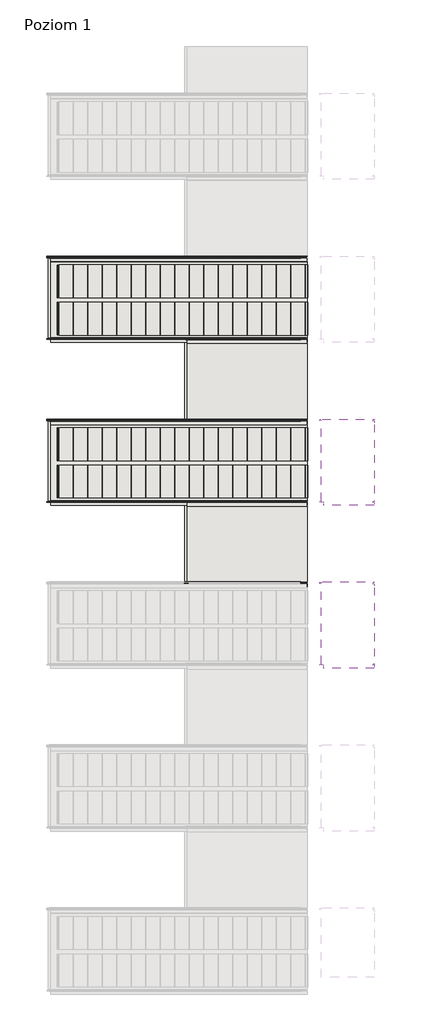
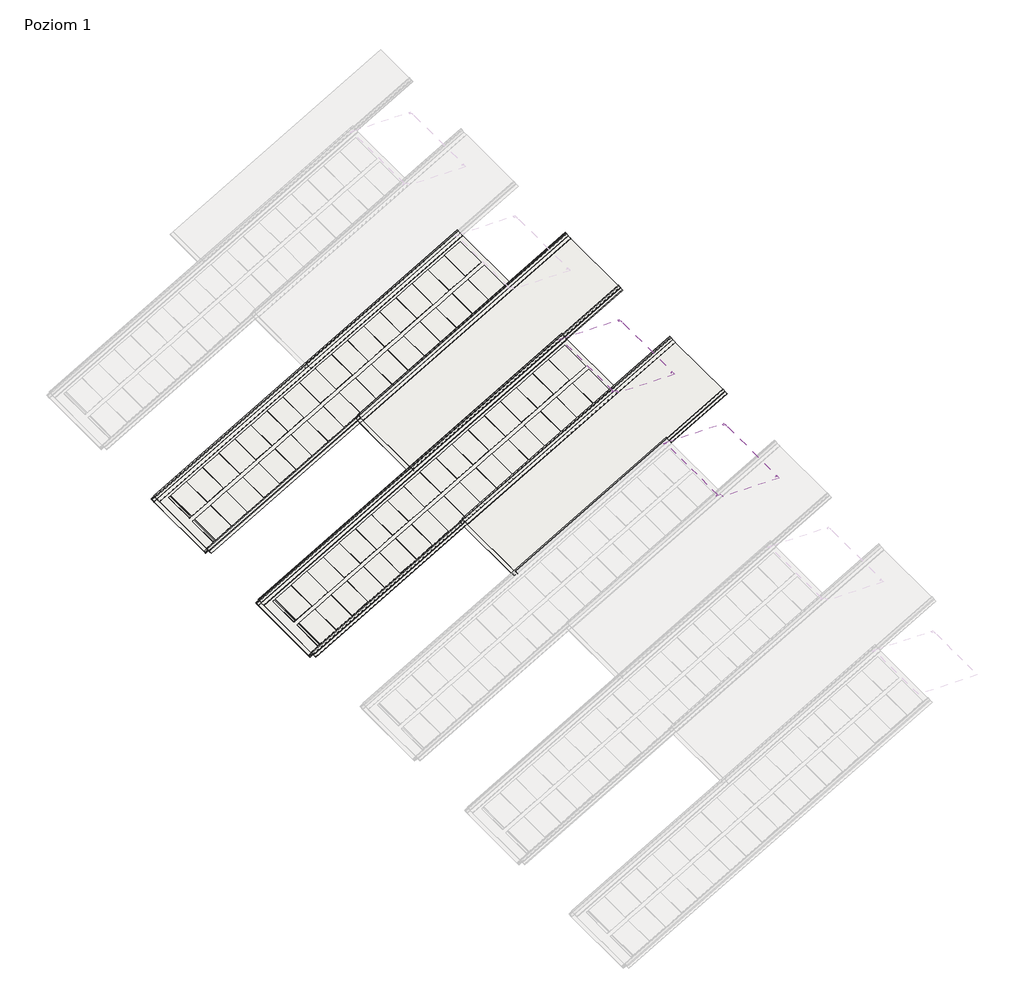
# One storey, part 4 of 5: 6 coverings.
"""IFC4 building model written with IfcOpenShell, lengths in millimetres."""

from ifc_helpers import new_model, si_unit, point, frame, frame_2d, origin, place, context, project, spatial, polyline, circle_curve, trimmed, segment, composite_curve, outline, extrude, transform, mapped, element, save
from components import covering_053faf2b

model = new_model("IFC4")

# Units and contexts
model_context = context("Model", 3, world=origin())
ifc_project = project(units=[si_unit("LENGTHUNIT", "METRE", prefix="MILLI")], contexts=[model_context])

# Site, building, storey
site = spatial("IfcSite", under=ifc_project)
building = spatial("IfcBuilding", under=site)
storey = spatial("IfcBuildingStorey", under=building, Name="Poziom 1", Elevation=3000.0)

# Coverings
placement = place(None, origin())
element("IfcCovering", 1, ObjectType="Zintegrowany dach fotowoltaiczny FIT L.P (pojedynczy arkusz) : Zintegrowany dach fotowoltaiczny FIT L.P (pojedynczy arkusz)", at=placement, inside=storey, context=model_context, shape_type="SweptSolid", body=[
    extrude(outline(composite_curve([segment(polyline([(17.2875351, 0.0), (0.0, 0.0)]), True, "CONTINUOUS"), segment(trimmed(circle_curve(frame_2d((0.0, -2.8)), 2.8), [point((0.0, 0.0))], [point((-2.8, -2.8))], True, "CARTESIAN"), True, "CONTINUOUS"), segment(polyline([(-2.8, -2.8), (-2.8, -20.5940327)]), True, "CONTINUOUS"), segment(trimmed(circle_curve(frame_2d((-4.4133269, -20.3837808)), 1.6269694), [point((-2.8, -20.5940327))], [point((-5.8290282, -21.185541))], False, "CARTESIAN"), True, "CONTINUOUS"), segment(polyline([(-5.8290282, -21.185541), (-11.2859094, -8.622424)]), True, "CONTINUOUS"), segment(trimmed(circle_curve(frame_2d((-9.3224649, -7.4245569)), 2.3), [point((-11.2859094, -8.622424))], [point((-10.3763841, -5.3802344))], False, "CARTESIAN"), True, "CONTINUOUS"), segment(polyline([(-10.3763841, -5.3802344), (-8.7036849, -4.7047108)]), True, "CONTINUOUS"), segment(trimmed(circle_curve(frame_2d((-9.0408607, -3.8698124)), 0.9004126), [point((-8.7036849, -4.7047108))], [point((-8.2514257, -3.4367591))], True, "CARTESIAN"), True, "CONTINUOUS"), segment(polyline([(-8.2514257, -3.4367591), (-10.1366978, 0.0), (-502.4735079, 0.0), (-504.4735079, -2.0), (-527.0645253, -2.0)]), True, "CONTINUOUS"), segment(trimmed(circle_curve(frame_2d((-527.0645253, -2.82435)), 0.82435), [point((-527.0645253, -2.0))], [point((-527.8888753, -2.82435))], True, "CARTESIAN"), True, "CONTINUOUS"), segment(polyline([(-527.8888753, -2.82435), (-527.8888753, -21.4999999)]), True, "CONTINUOUS"), segment(trimmed(circle_curve(frame_2d((-529.8888753, -21.4999999)), 2.0), [point((-527.8888753, -21.4999999))], [point((-529.8888753, -23.5))], False, "CARTESIAN"), True, "CONTINUOUS"), segment(polyline([(-529.8888753, -23.5), (-538.7124649, -23.5)]), True, "CONTINUOUS"), segment(trimmed(circle_curve(frame_2d((-538.7124649, -21.4999999)), 2.0), [point((-538.7124649, -23.5))], [point((-540.7124649, -21.4999999))], False, "CARTESIAN"), True, "CONTINUOUS"), segment(polyline([(-540.7124649, -21.4999999), (-540.7124649, -7.4245569)]), True, "CONTINUOUS"), segment(trimmed(circle_curve(frame_2d((-536.9124649, -7.4245569)), 3.8), [point((-540.7124649, -7.4245569))], [point((-538.602078, -4.0208519))], False, "CARTESIAN"), True, "CONTINUOUS"), segment(trimmed(circle_curve(frame_2d((-539.1177488, -2.9820395)), 1.1597619), [point((-538.602078, -4.0208519))], [point((-537.9725591, -2.798769))], True, "CARTESIAN"), True, "CONTINUOUS"), segment(polyline([(-537.9725591, -2.798769), (-538.8089749, -1.2740237), (-537.9322268, -0.7930739), (-537.1002451, -2.309736)]), True, "CONTINUOUS"), segment(trimmed(circle_curve(frame_2d((-538.6177488, -2.9820395)), 1.6597619), [point((-537.1002451, -2.309736))], [point((-537.8797605, -4.4687078))], False, "CARTESIAN"), True, "CONTINUOUS"), segment(trimmed(circle_curve(frame_2d((-536.4124649, -7.4245569)), 3.3), [point((-537.8797605, -4.4687078))], [point((-539.7124649, -7.4245569))], True, "CARTESIAN"), True, "CONTINUOUS"), segment(polyline([(-539.7124649, -7.4245569), (-539.7124649, -20.9999999)]), True, "CONTINUOUS"), segment(trimmed(circle_curve(frame_2d((-538.2124649, -20.9999999)), 1.5), [point((-539.7124649, -20.9999999))], [point((-538.2124649, -22.4999999))], True, "CARTESIAN"), True, "CONTINUOUS"), segment(polyline([(-538.2124649, -22.4999999), (-530.3888753, -22.4999999)]), True, "CONTINUOUS"), segment(trimmed(circle_curve(frame_2d((-530.3888753, -20.9999999)), 1.5), [point((-530.3888753, -22.4999999))], [point((-528.8888753, -20.9999999))], True, "CARTESIAN"), True, "CONTINUOUS"), segment(polyline([(-528.8888753, -20.9999999), (-528.8888753, -2.7363796)]), True, "CONTINUOUS"), segment(trimmed(circle_curve(frame_2d((-527.09, -2.8)), 1.8), [point((-528.8888753, -2.7363796))], [point((-527.09, -1.0))], False, "CARTESIAN"), True, "CONTINUOUS"), segment(polyline([(-527.09, -1.0), (-504.8877215, -1.0), (-502.8877215, 1.0), (-10.497252, 1.0)]), True, "CONTINUOUS"), segment(trimmed(circle_curve(frame_2d((-10.7205789, -0.9874922)), 2.0), [point((-10.497252, 1.0))], [point((-9.0887306, 0.1688258))], False, "CARTESIAN"), True, "CONTINUOUS"), segment(polyline([(-9.0887306, 0.1688258), (-7.1040334, -3.4491804)]), True, "CONTINUOUS"), segment(trimmed(circle_curve(frame_2d((-8.3318425, -4.1227085)), 1.4004126), [point((-7.1040334, -3.4491804))], [point((-7.8074327, -5.4212269))], False, "CARTESIAN"), True, "CONTINUOUS"), segment(polyline([(-7.8074327, -5.4212269), (-9.9530757, -6.28775)]), True, "CONTINUOUS"), segment(trimmed(circle_curve(frame_2d((-9.3224649, -7.4245569)), 1.3), [point((-9.9530757, -6.28775))], [point((-10.4001629, -8.151583))], True, "CARTESIAN"), True, "CONTINUOUS"), segment(polyline([(-10.4001629, -8.151583), (-4.9378013, -20.7273172)]), True, "CONTINUOUS"), segment(trimmed(circle_curve(frame_2d((-4.4133269, -20.3837808)), 0.6269694), [point((-4.9378013, -20.7273172))], [point((-3.8, -20.5138607))], True, "CARTESIAN"), True, "CONTINUOUS"), segment(polyline([(-3.8, -20.5138607), (-3.8, -2.8)]), True, "CONTINUOUS"), segment(trimmed(circle_curve(frame_2d((0.0, -2.8)), 3.8), [point((-3.8, -2.8))], [point((0.0, 1.0))], False, "CARTESIAN"), True, "CONTINUOUS"), segment(polyline([(0.0, 1.0), (17.2875351, 1.0), (17.2875351, 0.0)]), True, "CONTINUOUS")], self_intersect=False)), frame((597.6506789, -2604.5102619, 4261.5544457), z_axis=(0.8660254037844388, 0.0, 0.4999999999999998), x_axis=(0.0, -1.0, 0.0)), (0.0, 0.0, 1.0), 376.4773133),
    extrude(outline(composite_curve([segment(polyline([(28.1680323, -535.9799253), (40.9033235, -530.4482589)]), True, "CONTINUOUS"), segment(trimmed(circle_curve(frame_2d((41.6303496, -531.525957)), 1.3), [point((40.9033235, -530.4482589))], [point((42.7671565, -530.8953461))], False, "CARTESIAN"), True, "CONTINUOUS"), segment(polyline([(42.7671565, -530.8953461), (43.9725969, -533.8801997)]), True, "CONTINUOUS"), segment(trimmed(circle_curve(frame_2d((44.6041589, -533.6251419)), 0.6811204), [point((43.9725969, -533.8801997))], [point((44.9317436, -534.2223129))], True, "CARTESIAN"), True, "CONTINUOUS"), segment(polyline([(44.9317436, -534.2223129), (49.9999999, -531.442065), (49.9999999, -11.6479396)]), True, "CONTINUOUS"), segment(trimmed(circle_curve(frame_2d((49.17565, -11.6479396)), 0.82435), [point((49.9999999, -11.6479396))], [point((49.17565, -10.8235896))], True, "CARTESIAN"), True, "CONTINUOUS"), segment(polyline([(49.17565, -10.8235896), (30.0, -10.8235896)]), True, "CONTINUOUS"), segment(trimmed(circle_curve(frame_2d((30.0, -8.8235896)), 2.0), [point((30.0, -10.8235896))], [point((28.0, -8.8235896))], False, "CARTESIAN"), True, "CONTINUOUS"), segment(polyline([(28.0, -8.8235896), (28.0, -4.0)]), True, "CONTINUOUS"), segment(trimmed(circle_curve(frame_2d((30.0, -4.0)), 2.0), [point((28.0, -4.0))], [point((30.0, -2.0))], False, "CARTESIAN"), True, "CONTINUOUS"), segment(polyline([(30.0, -2.0), (42.075443, -2.0)]), True, "CONTINUOUS"), segment(trimmed(circle_curve(frame_2d((42.075443, -5.8)), 3.8), [point((42.075443, -2.0))], [point((45.479148, -4.1103869))], False, "CARTESIAN"), True, "CONTINUOUS"), segment(trimmed(circle_curve(frame_2d((46.5179605, -3.5947161)), 1.1597619), [point((45.479148, -4.1103869))], [point((46.7012309, -4.7399058))], True, "CARTESIAN"), True, "CONTINUOUS"), segment(polyline([(46.7012309, -4.7399058), (48.2259762, -3.90349), (48.7069261, -4.7802381), (47.190264, -5.6122198)]), True, "CONTINUOUS"), segment(trimmed(circle_curve(frame_2d((46.5179605, -4.0947161)), 1.6597619), [point((47.190264, -5.6122198))], [point((45.0312921, -4.8327044))], False, "CARTESIAN"), True, "CONTINUOUS"), segment(trimmed(circle_curve(frame_2d((42.075443, -6.3)), 3.3), [point((45.0312921, -4.8327044))], [point((42.075443, -3.0))], True, "CARTESIAN"), True, "CONTINUOUS"), segment(polyline([(42.075443, -3.0), (30.5, -3.0)]), True, "CONTINUOUS"), segment(trimmed(circle_curve(frame_2d((30.5, -4.5)), 1.5), [point((30.5, -3.0))], [point((29.0, -4.5))], True, "CARTESIAN"), True, "CONTINUOUS"), segment(polyline([(29.0, -4.5), (29.0, -8.3235896)]), True, "CONTINUOUS"), segment(trimmed(circle_curve(frame_2d((30.5, -8.3235896)), 1.5), [point((29.0, -8.3235896))], [point((30.5, -9.8235896))], True, "CARTESIAN"), True, "CONTINUOUS"), segment(polyline([(30.5, -9.8235896), (49.2636204, -9.8235896)]), True, "CONTINUOUS"), segment(trimmed(circle_curve(frame_2d((49.1999999, -11.6224649)), 1.8), [point((49.2636204, -9.8235896))], [point((50.9999999, -11.6224649))], False, "CARTESIAN"), True, "CONTINUOUS"), segment(polyline([(50.9999999, -11.6224649), (50.9999999, -530.8500476)]), True, "CONTINUOUS"), segment(trimmed(circle_curve(frame_2d((48.9999999, -530.8500476)), 2.0), [point((50.9999999, -530.8500476))], [point((49.9618997, -532.6035438))], False, "CARTESIAN"), True, "CONTINUOUS"), segment(polyline([(49.9618997, -532.6035438), (45.1357072, -535.2510049)]), True, "CONTINUOUS"), segment(trimmed(circle_curve(frame_2d((44.462179, -534.0231958)), 1.4004126), [point((45.1357072, -535.2510049))], [point((43.1636607, -534.5476056))], False, "CARTESIAN"), True, "CONTINUOUS"), segment(polyline([(43.1636607, -534.5476056), (41.792464, -531.152314), (28.7259873, -536.8278332)]), True, "CONTINUOUS"), segment(trimmed(circle_curve(frame_2d((28.5207601, -536.3553487)), 0.5151308), [point((28.7259873, -536.8278332))], [point((28.1680323, -535.9799253))], False, "CARTESIAN"), True, "CONTINUOUS")], self_intersect=False)), frame((555.8301708, -2063.797797, 4293.9896904), z_axis=(0.8660254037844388, 0.0, 0.4999999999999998), x_axis=(0.4999999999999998, 0.0, -0.8660254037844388)), (0.0, 0.0, 1.0), 30.0),
])
element("IfcCovering", 2, ObjectType="Zintegrowany dach fotowoltaiczny FIT L.P (pojedynczy arkusz) : Zintegrowany dach fotowoltaiczny FIT L.P (pojedynczy arkusz)", at=placement, inside=storey, context=model_context, shape_type="SweptSolid", body=[
    extrude(outline(composite_curve([segment(polyline([(17.2875351, 0.0), (0.0, 0.0)]), True, "CONTINUOUS"), segment(trimmed(circle_curve(frame_2d((0.0, -2.8)), 2.8), [point((0.0, 0.0))], [point((-2.8, -2.8))], True, "CARTESIAN"), True, "CONTINUOUS"), segment(polyline([(-2.8, -2.8), (-2.8, -20.5940327)]), True, "CONTINUOUS"), segment(trimmed(circle_curve(frame_2d((-4.4133269, -20.3837808)), 1.6269694), [point((-2.8, -20.5940327))], [point((-5.8290282, -21.185541))], False, "CARTESIAN"), True, "CONTINUOUS"), segment(polyline([(-5.8290282, -21.185541), (-11.2859094, -8.622424)]), True, "CONTINUOUS"), segment(trimmed(circle_curve(frame_2d((-9.3224649, -7.4245569)), 2.3), [point((-11.2859094, -8.622424))], [point((-10.3763841, -5.3802344))], False, "CARTESIAN"), True, "CONTINUOUS"), segment(polyline([(-10.3763841, -5.3802344), (-8.7036849, -4.7047108)]), True, "CONTINUOUS"), segment(trimmed(circle_curve(frame_2d((-9.0408607, -3.8698124)), 0.9004126), [point((-8.7036849, -4.7047108))], [point((-8.2514257, -3.4367591))], True, "CARTESIAN"), True, "CONTINUOUS"), segment(polyline([(-8.2514257, -3.4367591), (-10.1366978, 0.0), (-502.4735079, 0.0), (-504.4735079, -2.0), (-527.0645253, -2.0)]), True, "CONTINUOUS"), segment(trimmed(circle_curve(frame_2d((-527.0645253, -2.82435)), 0.82435), [point((-527.0645253, -2.0))], [point((-527.8888753, -2.82435))], True, "CARTESIAN"), True, "CONTINUOUS"), segment(polyline([(-527.8888753, -2.82435), (-527.8888753, -21.4999999)]), True, "CONTINUOUS"), segment(trimmed(circle_curve(frame_2d((-529.8888753, -21.4999999)), 2.0), [point((-527.8888753, -21.4999999))], [point((-529.8888753, -23.5))], False, "CARTESIAN"), True, "CONTINUOUS"), segment(polyline([(-529.8888753, -23.5), (-538.7124649, -23.5)]), True, "CONTINUOUS"), segment(trimmed(circle_curve(frame_2d((-538.7124649, -21.4999999)), 2.0), [point((-538.7124649, -23.5))], [point((-540.7124649, -21.4999999))], False, "CARTESIAN"), True, "CONTINUOUS"), segment(polyline([(-540.7124649, -21.4999999), (-540.7124649, -7.4245569)]), True, "CONTINUOUS"), segment(trimmed(circle_curve(frame_2d((-536.9124649, -7.4245569)), 3.8), [point((-540.7124649, -7.4245569))], [point((-538.602078, -4.0208519))], False, "CARTESIAN"), True, "CONTINUOUS"), segment(trimmed(circle_curve(frame_2d((-539.1177488, -2.9820394)), 1.1597619), [point((-538.602078, -4.0208519))], [point((-537.9725591, -2.798769))], True, "CARTESIAN"), True, "CONTINUOUS"), segment(polyline([(-537.9725591, -2.798769), (-538.8089749, -1.2740237), (-537.9322268, -0.7930738), (-537.1002451, -2.3097359)]), True, "CONTINUOUS"), segment(trimmed(circle_curve(frame_2d((-538.6177488, -2.9820394)), 1.6597619), [point((-537.1002451, -2.3097359))], [point((-537.8797605, -4.4687078))], False, "CARTESIAN"), True, "CONTINUOUS"), segment(trimmed(circle_curve(frame_2d((-536.4124649, -7.4245569)), 3.3), [point((-537.8797605, -4.4687078))], [point((-539.7124649, -7.4245569))], True, "CARTESIAN"), True, "CONTINUOUS"), segment(polyline([(-539.7124649, -7.4245569), (-539.7124649, -20.9999999)]), True, "CONTINUOUS"), segment(trimmed(circle_curve(frame_2d((-538.2124649, -20.9999999)), 1.5), [point((-539.7124649, -20.9999999))], [point((-538.2124649, -22.4999999))], True, "CARTESIAN"), True, "CONTINUOUS"), segment(polyline([(-538.2124649, -22.4999999), (-530.3888753, -22.4999999)]), True, "CONTINUOUS"), segment(trimmed(circle_curve(frame_2d((-530.3888753, -20.9999999)), 1.5), [point((-530.3888753, -22.4999999))], [point((-528.8888753, -20.9999999))], True, "CARTESIAN"), True, "CONTINUOUS"), segment(polyline([(-528.8888753, -20.9999999), (-528.8888753, -2.7363796)]), True, "CONTINUOUS"), segment(trimmed(circle_curve(frame_2d((-527.09, -2.8)), 1.8), [point((-528.8888753, -2.7363796))], [point((-527.09, -1.0))], False, "CARTESIAN"), True, "CONTINUOUS"), segment(polyline([(-527.09, -1.0), (-504.8877215, -1.0), (-502.8877215, 1.0), (-10.497252, 1.0)]), True, "CONTINUOUS"), segment(trimmed(circle_curve(frame_2d((-10.7205789, -0.9874921)), 2.0), [point((-10.497252, 1.0))], [point((-9.0887306, 0.1688258))], False, "CARTESIAN"), True, "CONTINUOUS"), segment(polyline([(-9.0887306, 0.1688258), (-7.1040334, -3.4491804)]), True, "CONTINUOUS"), segment(trimmed(circle_curve(frame_2d((-8.3318425, -4.1227085)), 1.4004126), [point((-7.1040334, -3.4491804))], [point((-7.8074327, -5.4212269))], False, "CARTESIAN"), True, "CONTINUOUS"), segment(polyline([(-7.8074327, -5.4212269), (-9.9530757, -6.2877499)]), True, "CONTINUOUS"), segment(trimmed(circle_curve(frame_2d((-9.3224649, -7.4245569)), 1.3), [point((-9.9530757, -6.2877499))], [point((-10.4001629, -8.151583))], True, "CARTESIAN"), True, "CONTINUOUS"), segment(polyline([(-10.4001629, -8.151583), (-4.9378013, -20.7273172)]), True, "CONTINUOUS"), segment(trimmed(circle_curve(frame_2d((-4.4133269, -20.3837808)), 0.6269694), [point((-4.9378013, -20.7273172))], [point((-3.8, -20.5138607))], True, "CARTESIAN"), True, "CONTINUOUS"), segment(polyline([(-3.8, -20.5138607), (-3.8, -2.8)]), True, "CONTINUOUS"), segment(trimmed(circle_curve(frame_2d((0.0, -2.8)), 3.8), [point((-3.8, -2.8))], [point((0.0, 1.0))], False, "CARTESIAN"), True, "CONTINUOUS"), segment(polyline([(0.0, 1.0), (17.2875351, 1.0), (17.2875351, 0.0)]), True, "CONTINUOUS")], self_intersect=False)), frame((-285.695233, -2077.5102619, 3751.5544457), z_axis=(0.8660254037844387, 0.0, 0.49999999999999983), x_axis=(0.0, -1.0, 0.0)), (0.0, 0.0, 1.0), 1396.4773133),
    extrude(outline(composite_curve([segment(polyline([(28.1680322, -535.9799253), (40.9033234, -530.4482589)]), True, "CONTINUOUS"), segment(trimmed(circle_curve(frame_2d((41.6303496, -531.525957)), 1.3), [point((40.9033234, -530.4482589))], [point((42.7671565, -530.8953461))], False, "CARTESIAN"), True, "CONTINUOUS"), segment(polyline([(42.7671565, -530.8953461), (43.9725969, -533.8801997)]), True, "CONTINUOUS"), segment(trimmed(circle_curve(frame_2d((44.6041589, -533.6251419)), 0.6811204), [point((43.9725969, -533.8801997))], [point((44.9317436, -534.2223129))], True, "CARTESIAN"), True, "CONTINUOUS"), segment(polyline([(44.9317436, -534.2223129), (49.9999999, -531.442065), (49.9999999, -11.6479396)]), True, "CONTINUOUS"), segment(trimmed(circle_curve(frame_2d((49.17565, -11.6479396)), 0.82435), [point((49.9999999, -11.6479396))], [point((49.17565, -10.8235896))], True, "CARTESIAN"), True, "CONTINUOUS"), segment(polyline([(49.17565, -10.8235896), (30.0, -10.8235896)]), True, "CONTINUOUS"), segment(trimmed(circle_curve(frame_2d((30.0, -8.8235896)), 2.0), [point((30.0, -10.8235896))], [point((28.0, -8.8235896))], False, "CARTESIAN"), True, "CONTINUOUS"), segment(polyline([(28.0, -8.8235896), (28.0, -4.0)]), True, "CONTINUOUS"), segment(trimmed(circle_curve(frame_2d((30.0, -4.0)), 2.0), [point((28.0, -4.0))], [point((30.0, -2.0))], False, "CARTESIAN"), True, "CONTINUOUS"), segment(polyline([(30.0, -2.0), (42.075443, -2.0)]), True, "CONTINUOUS"), segment(trimmed(circle_curve(frame_2d((42.075443, -5.8)), 3.8), [point((42.075443, -2.0))], [point((45.479148, -4.1103869))], False, "CARTESIAN"), True, "CONTINUOUS"), segment(trimmed(circle_curve(frame_2d((46.5179605, -3.5947161)), 1.1597619), [point((45.479148, -4.1103869))], [point((46.7012308, -4.7399058))], True, "CARTESIAN"), True, "CONTINUOUS"), segment(polyline([(46.7012308, -4.7399058), (48.2259762, -3.90349), (48.706926, -4.7802381), (47.190264, -5.6122198)]), True, "CONTINUOUS"), segment(trimmed(circle_curve(frame_2d((46.5179605, -4.0947161)), 1.6597619), [point((47.190264, -5.6122198))], [point((45.0312921, -4.8327044))], False, "CARTESIAN"), True, "CONTINUOUS"), segment(trimmed(circle_curve(frame_2d((42.075443, -6.3)), 3.3), [point((45.0312921, -4.8327044))], [point((42.075443, -3.0))], True, "CARTESIAN"), True, "CONTINUOUS"), segment(polyline([(42.075443, -3.0), (30.5, -3.0)]), True, "CONTINUOUS"), segment(trimmed(circle_curve(frame_2d((30.5, -4.5)), 1.5), [point((30.5, -3.0))], [point((29.0, -4.5))], True, "CARTESIAN"), True, "CONTINUOUS"), segment(polyline([(29.0, -4.5), (29.0, -8.3235896)]), True, "CONTINUOUS"), segment(trimmed(circle_curve(frame_2d((30.5, -8.3235896)), 1.5), [point((29.0, -8.3235896))], [point((30.5, -9.8235896))], True, "CARTESIAN"), True, "CONTINUOUS"), segment(polyline([(30.5, -9.8235896), (49.2636204, -9.8235896)]), True, "CONTINUOUS"), segment(trimmed(circle_curve(frame_2d((49.1999999, -11.6224649)), 1.8), [point((49.2636204, -9.8235896))], [point((50.9999999, -11.6224649))], False, "CARTESIAN"), True, "CONTINUOUS"), segment(polyline([(50.9999999, -11.6224649), (50.9999999, -530.8500476)]), True, "CONTINUOUS"), segment(trimmed(circle_curve(frame_2d((48.9999999, -530.8500476)), 2.0), [point((50.9999999, -530.8500476))], [point((49.9618996, -532.6035438))], False, "CARTESIAN"), True, "CONTINUOUS"), segment(polyline([(49.9618996, -532.6035438), (45.1357072, -535.2510049)]), True, "CONTINUOUS"), segment(trimmed(circle_curve(frame_2d((44.462179, -534.0231958)), 1.4004126), [point((45.1357072, -535.2510049))], [point((43.1636607, -534.5476056))], False, "CARTESIAN"), True, "CONTINUOUS"), segment(polyline([(43.1636607, -534.5476056), (41.792464, -531.152314), (28.7259872, -536.8278332)]), True, "CONTINUOUS"), segment(trimmed(circle_curve(frame_2d((28.5207601, -536.3553487)), 0.5151308), [point((28.7259872, -536.8278332))], [point((28.1680322, -535.9799253))], False, "CARTESIAN"), True, "CONTINUOUS")], self_intersect=False)), frame((-327.515741, -1536.797797, 3783.9896904), z_axis=(0.8660254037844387, 0.0, 0.49999999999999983), x_axis=(0.49999999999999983, 0.0, -0.8660254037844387)), (0.0, 0.0, 1.0), 30.0),
])
element("IfcCovering", 3, ObjectType="Zintegrowany dach fotowoltaiczny FIT L.P (pojedynczy arkusz) : Zintegrowany dach fotowoltaiczny FIT L.P (pojedynczy arkusz)", at=placement, inside=storey, context=model_context, shape_type="SweptSolid", body=[
    extrude(outline(composite_curve([segment(polyline([(17.2875351, 0.0), (0.0, 0.0)]), True, "CONTINUOUS"), segment(trimmed(circle_curve(frame_2d((0.0, -2.8)), 2.8), [point((0.0, 0.0))], [point((-2.8, -2.8))], True, "CARTESIAN"), True, "CONTINUOUS"), segment(polyline([(-2.8, -2.8), (-2.8, -20.5940327)]), True, "CONTINUOUS"), segment(trimmed(circle_curve(frame_2d((-4.4133269, -20.3837808)), 1.6269694), [point((-2.8, -20.5940327))], [point((-5.8290282, -21.185541))], False, "CARTESIAN"), True, "CONTINUOUS"), segment(polyline([(-5.8290282, -21.185541), (-11.2859094, -8.622424)]), True, "CONTINUOUS"), segment(trimmed(circle_curve(frame_2d((-9.3224649, -7.4245569)), 2.3), [point((-11.2859094, -8.622424))], [point((-10.3763841, -5.3802344))], False, "CARTESIAN"), True, "CONTINUOUS"), segment(polyline([(-10.3763841, -5.3802344), (-8.7036849, -4.7047108)]), True, "CONTINUOUS"), segment(trimmed(circle_curve(frame_2d((-9.0408607, -3.8698124)), 0.9004126), [point((-8.7036849, -4.7047108))], [point((-8.2514257, -3.4367591))], True, "CARTESIAN"), True, "CONTINUOUS"), segment(polyline([(-8.2514257, -3.4367591), (-10.1366978, 0.0), (-502.4735079, 0.0), (-504.4735079, -2.0), (-527.0645253, -2.0)]), True, "CONTINUOUS"), segment(trimmed(circle_curve(frame_2d((-527.0645253, -2.82435)), 0.82435), [point((-527.0645253, -2.0))], [point((-527.8888753, -2.82435))], True, "CARTESIAN"), True, "CONTINUOUS"), segment(polyline([(-527.8888753, -2.82435), (-527.8888753, -21.4999999)]), True, "CONTINUOUS"), segment(trimmed(circle_curve(frame_2d((-529.8888753, -21.4999999)), 2.0), [point((-527.8888753, -21.4999999))], [point((-529.8888753, -23.5))], False, "CARTESIAN"), True, "CONTINUOUS"), segment(polyline([(-529.8888753, -23.5), (-538.7124649, -23.5)]), True, "CONTINUOUS"), segment(trimmed(circle_curve(frame_2d((-538.7124649, -21.4999999)), 2.0), [point((-538.7124649, -23.5))], [point((-540.7124649, -21.4999999))], False, "CARTESIAN"), True, "CONTINUOUS"), segment(polyline([(-540.7124649, -21.4999999), (-540.7124649, -7.4245569)]), True, "CONTINUOUS"), segment(trimmed(circle_curve(frame_2d((-536.9124649, -7.4245569)), 3.8), [point((-540.7124649, -7.4245569))], [point((-538.602078, -4.0208519))], False, "CARTESIAN"), True, "CONTINUOUS"), segment(trimmed(circle_curve(frame_2d((-539.1177488, -2.9820395)), 1.1597619), [point((-538.602078, -4.0208519))], [point((-537.9725591, -2.798769))], True, "CARTESIAN"), True, "CONTINUOUS"), segment(polyline([(-537.9725591, -2.798769), (-538.8089749, -1.2740237), (-537.9322268, -0.7930739), (-537.1002451, -2.309736)]), True, "CONTINUOUS"), segment(trimmed(circle_curve(frame_2d((-538.6177488, -2.9820395)), 1.6597619), [point((-537.1002451, -2.309736))], [point((-537.8797605, -4.4687078))], False, "CARTESIAN"), True, "CONTINUOUS"), segment(trimmed(circle_curve(frame_2d((-536.4124649, -7.4245569)), 3.3), [point((-537.8797605, -4.4687078))], [point((-539.7124649, -7.4245569))], True, "CARTESIAN"), True, "CONTINUOUS"), segment(polyline([(-539.7124649, -7.4245569), (-539.7124649, -20.9999999)]), True, "CONTINUOUS"), segment(trimmed(circle_curve(frame_2d((-538.2124649, -20.9999999)), 1.5), [point((-539.7124649, -20.9999999))], [point((-538.2124649, -22.4999999))], True, "CARTESIAN"), True, "CONTINUOUS"), segment(polyline([(-538.2124649, -22.4999999), (-530.3888753, -22.4999999)]), True, "CONTINUOUS"), segment(trimmed(circle_curve(frame_2d((-530.3888753, -20.9999999)), 1.5), [point((-530.3888753, -22.4999999))], [point((-528.8888753, -20.9999999))], True, "CARTESIAN"), True, "CONTINUOUS"), segment(polyline([(-528.8888753, -20.9999999), (-528.8888753, -2.7363796)]), True, "CONTINUOUS"), segment(trimmed(circle_curve(frame_2d((-527.09, -2.8)), 1.8), [point((-528.8888753, -2.7363796))], [point((-527.09, -1.0))], False, "CARTESIAN"), True, "CONTINUOUS"), segment(polyline([(-527.09, -1.0), (-504.8877215, -1.0), (-502.8877215, 1.0), (-10.497252, 1.0)]), True, "CONTINUOUS"), segment(trimmed(circle_curve(frame_2d((-10.7205789, -0.9874922)), 2.0), [point((-10.497252, 1.0))], [point((-9.0887306, 0.1688258))], False, "CARTESIAN"), True, "CONTINUOUS"), segment(polyline([(-9.0887306, 0.1688258), (-7.1040334, -3.4491804)]), True, "CONTINUOUS"), segment(trimmed(circle_curve(frame_2d((-8.3318425, -4.1227085)), 1.4004126), [point((-7.1040334, -3.4491804))], [point((-7.8074327, -5.4212269))], False, "CARTESIAN"), True, "CONTINUOUS"), segment(polyline([(-7.8074327, -5.4212269), (-9.9530757, -6.28775)]), True, "CONTINUOUS"), segment(trimmed(circle_curve(frame_2d((-9.3224649, -7.4245569)), 1.3), [point((-9.9530757, -6.28775))], [point((-10.4001629, -8.151583))], True, "CARTESIAN"), True, "CONTINUOUS"), segment(polyline([(-10.4001629, -8.151583), (-4.9378013, -20.7273172)]), True, "CONTINUOUS"), segment(trimmed(circle_curve(frame_2d((-4.4133269, -20.3837808)), 0.6269694), [point((-4.9378013, -20.7273172))], [point((-3.8, -20.5138607))], True, "CARTESIAN"), True, "CONTINUOUS"), segment(polyline([(-3.8, -20.5138607), (-3.8, -2.8)]), True, "CONTINUOUS"), segment(trimmed(circle_curve(frame_2d((0.0, -2.8)), 3.8), [point((-3.8, -2.8))], [point((0.0, 1.0))], False, "CARTESIAN"), True, "CONTINUOUS"), segment(polyline([(0.0, 1.0), (17.2875351, 1.0), (17.2875351, 0.0)]), True, "CONTINUOUS")], self_intersect=False)), frame((597.6506789, -1550.5102619, 4261.5544457), z_axis=(0.8660254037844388, 0.0, 0.49999999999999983), x_axis=(0.0, -1.0, 0.0)), (0.0, 0.0, 1.0), 376.4773133),
    extrude(outline(composite_curve([segment(polyline([(28.1680323, -535.9799253), (40.9033235, -530.4482589)]), True, "CONTINUOUS"), segment(trimmed(circle_curve(frame_2d((41.6303496, -531.525957)), 1.3), [point((40.9033235, -530.4482589))], [point((42.7671565, -530.8953461))], False, "CARTESIAN"), True, "CONTINUOUS"), segment(polyline([(42.7671565, -530.8953461), (43.9725969, -533.8801997)]), True, "CONTINUOUS"), segment(trimmed(circle_curve(frame_2d((44.6041589, -533.6251419)), 0.6811204), [point((43.9725969, -533.8801997))], [point((44.9317436, -534.2223129))], True, "CARTESIAN"), True, "CONTINUOUS"), segment(polyline([(44.9317436, -534.2223129), (49.9999999, -531.442065), (49.9999999, -11.6479396)]), True, "CONTINUOUS"), segment(trimmed(circle_curve(frame_2d((49.17565, -11.6479396)), 0.82435), [point((49.9999999, -11.6479396))], [point((49.17565, -10.8235896))], True, "CARTESIAN"), True, "CONTINUOUS"), segment(polyline([(49.17565, -10.8235896), (30.0, -10.8235896)]), True, "CONTINUOUS"), segment(trimmed(circle_curve(frame_2d((30.0, -8.8235896)), 2.0), [point((30.0, -10.8235896))], [point((28.0, -8.8235896))], False, "CARTESIAN"), True, "CONTINUOUS"), segment(polyline([(28.0, -8.8235896), (28.0, -4.0)]), True, "CONTINUOUS"), segment(trimmed(circle_curve(frame_2d((30.0, -4.0)), 2.0), [point((28.0, -4.0))], [point((30.0, -2.0))], False, "CARTESIAN"), True, "CONTINUOUS"), segment(polyline([(30.0, -2.0), (42.075443, -2.0)]), True, "CONTINUOUS"), segment(trimmed(circle_curve(frame_2d((42.075443, -5.8)), 3.8), [point((42.075443, -2.0))], [point((45.479148, -4.1103869))], False, "CARTESIAN"), True, "CONTINUOUS"), segment(trimmed(circle_curve(frame_2d((46.5179605, -3.5947161)), 1.1597619), [point((45.479148, -4.1103869))], [point((46.7012309, -4.7399058))], True, "CARTESIAN"), True, "CONTINUOUS"), segment(polyline([(46.7012309, -4.7399058), (48.2259762, -3.90349), (48.7069261, -4.7802381), (47.190264, -5.6122198)]), True, "CONTINUOUS"), segment(trimmed(circle_curve(frame_2d((46.5179605, -4.0947161)), 1.6597619), [point((47.190264, -5.6122198))], [point((45.0312921, -4.8327044))], False, "CARTESIAN"), True, "CONTINUOUS"), segment(trimmed(circle_curve(frame_2d((42.075443, -6.3)), 3.3), [point((45.0312921, -4.8327044))], [point((42.075443, -3.0))], True, "CARTESIAN"), True, "CONTINUOUS"), segment(polyline([(42.075443, -3.0), (30.5, -3.0)]), True, "CONTINUOUS"), segment(trimmed(circle_curve(frame_2d((30.5, -4.5)), 1.5), [point((30.5, -3.0))], [point((29.0, -4.5))], True, "CARTESIAN"), True, "CONTINUOUS"), segment(polyline([(29.0, -4.5), (29.0, -8.3235896)]), True, "CONTINUOUS"), segment(trimmed(circle_curve(frame_2d((30.5, -8.3235896)), 1.5), [point((29.0, -8.3235896))], [point((30.5, -9.8235896))], True, "CARTESIAN"), True, "CONTINUOUS"), segment(polyline([(30.5, -9.8235896), (49.2636204, -9.8235896)]), True, "CONTINUOUS"), segment(trimmed(circle_curve(frame_2d((49.1999999, -11.6224649)), 1.8), [point((49.2636204, -9.8235896))], [point((50.9999999, -11.6224649))], False, "CARTESIAN"), True, "CONTINUOUS"), segment(polyline([(50.9999999, -11.6224649), (50.9999999, -530.8500476)]), True, "CONTINUOUS"), segment(trimmed(circle_curve(frame_2d((48.9999999, -530.8500476)), 2.0), [point((50.9999999, -530.8500476))], [point((49.9618997, -532.6035438))], False, "CARTESIAN"), True, "CONTINUOUS"), segment(polyline([(49.9618997, -532.6035438), (45.1357072, -535.2510049)]), True, "CONTINUOUS"), segment(trimmed(circle_curve(frame_2d((44.462179, -534.0231958)), 1.4004126), [point((45.1357072, -535.2510049))], [point((43.1636607, -534.5476056))], False, "CARTESIAN"), True, "CONTINUOUS"), segment(polyline([(43.1636607, -534.5476056), (41.792464, -531.152314), (28.7259873, -536.8278332)]), True, "CONTINUOUS"), segment(trimmed(circle_curve(frame_2d((28.5207601, -536.3553487)), 0.5151308), [point((28.7259873, -536.8278332))], [point((28.1680323, -535.9799253))], False, "CARTESIAN"), True, "CONTINUOUS")], self_intersect=False)), frame((555.8301708, -1009.797797, 4293.9896904), z_axis=(0.8660254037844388, 0.0, 0.49999999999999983), x_axis=(0.49999999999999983, 0.0, -0.8660254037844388)), (0.0, 0.0, 1.0), 30.0),
])
element("IfcCovering", 4, ObjectType="Zintegrowany dach fotowoltaiczny FIT L.P (pojedynczy arkusz) : Zintegrowany dach fotowoltaiczny FIT L.P (pojedynczy arkusz)", at=placement, inside=storey, context=model_context, shape_type="SweptSolid", body=[
    extrude(outline(composite_curve([segment(polyline([(17.2875351, 0.0), (0.0, 0.0)]), True, "CONTINUOUS"), segment(trimmed(circle_curve(frame_2d((0.0, -2.8)), 2.8), [point((0.0, 0.0))], [point((-2.8, -2.8))], True, "CARTESIAN"), True, "CONTINUOUS"), segment(polyline([(-2.8, -2.8), (-2.8, -20.5940327)]), True, "CONTINUOUS"), segment(trimmed(circle_curve(frame_2d((-4.4133269, -20.3837808)), 1.6269694), [point((-2.8, -20.5940327))], [point((-5.8290282, -21.185541))], False, "CARTESIAN"), True, "CONTINUOUS"), segment(polyline([(-5.8290282, -21.185541), (-11.2859094, -8.622424)]), True, "CONTINUOUS"), segment(trimmed(circle_curve(frame_2d((-9.3224649, -7.4245569)), 2.3), [point((-11.2859094, -8.622424))], [point((-10.3763841, -5.3802344))], False, "CARTESIAN"), True, "CONTINUOUS"), segment(polyline([(-10.3763841, -5.3802344), (-8.7036849, -4.7047108)]), True, "CONTINUOUS"), segment(trimmed(circle_curve(frame_2d((-9.0408607, -3.8698124)), 0.9004126), [point((-8.7036849, -4.7047108))], [point((-8.2514257, -3.4367591))], True, "CARTESIAN"), True, "CONTINUOUS"), segment(polyline([(-8.2514257, -3.4367591), (-10.1366978, 0.0), (-502.4735079, 0.0), (-504.4735079, -2.0), (-527.0645253, -2.0)]), True, "CONTINUOUS"), segment(trimmed(circle_curve(frame_2d((-527.0645253, -2.82435)), 0.82435), [point((-527.0645253, -2.0))], [point((-527.8888753, -2.82435))], True, "CARTESIAN"), True, "CONTINUOUS"), segment(polyline([(-527.8888753, -2.82435), (-527.8888753, -21.4999999)]), True, "CONTINUOUS"), segment(trimmed(circle_curve(frame_2d((-529.8888753, -21.4999999)), 2.0), [point((-527.8888753, -21.4999999))], [point((-529.8888753, -23.5))], False, "CARTESIAN"), True, "CONTINUOUS"), segment(polyline([(-529.8888753, -23.5), (-538.7124649, -23.5)]), True, "CONTINUOUS"), segment(trimmed(circle_curve(frame_2d((-538.7124649, -21.4999999)), 2.0), [point((-538.7124649, -23.5))], [point((-540.7124649, -21.4999999))], False, "CARTESIAN"), True, "CONTINUOUS"), segment(polyline([(-540.7124649, -21.4999999), (-540.7124649, -7.4245569)]), True, "CONTINUOUS"), segment(trimmed(circle_curve(frame_2d((-536.9124649, -7.4245569)), 3.8), [point((-540.7124649, -7.4245569))], [point((-538.602078, -4.0208519))], False, "CARTESIAN"), True, "CONTINUOUS"), segment(trimmed(circle_curve(frame_2d((-539.1177488, -2.9820394)), 1.1597619), [point((-538.602078, -4.0208519))], [point((-537.9725591, -2.798769))], True, "CARTESIAN"), True, "CONTINUOUS"), segment(polyline([(-537.9725591, -2.798769), (-538.8089749, -1.2740237), (-537.9322268, -0.7930738), (-537.1002451, -2.3097359)]), True, "CONTINUOUS"), segment(trimmed(circle_curve(frame_2d((-538.6177488, -2.9820394)), 1.6597619), [point((-537.1002451, -2.3097359))], [point((-537.8797605, -4.4687078))], False, "CARTESIAN"), True, "CONTINUOUS"), segment(trimmed(circle_curve(frame_2d((-536.4124649, -7.4245569)), 3.3), [point((-537.8797605, -4.4687078))], [point((-539.7124649, -7.4245569))], True, "CARTESIAN"), True, "CONTINUOUS"), segment(polyline([(-539.7124649, -7.4245569), (-539.7124649, -20.9999999)]), True, "CONTINUOUS"), segment(trimmed(circle_curve(frame_2d((-538.2124649, -20.9999999)), 1.5), [point((-539.7124649, -20.9999999))], [point((-538.2124649, -22.4999999))], True, "CARTESIAN"), True, "CONTINUOUS"), segment(polyline([(-538.2124649, -22.4999999), (-530.3888753, -22.4999999)]), True, "CONTINUOUS"), segment(trimmed(circle_curve(frame_2d((-530.3888753, -20.9999999)), 1.5), [point((-530.3888753, -22.4999999))], [point((-528.8888753, -20.9999999))], True, "CARTESIAN"), True, "CONTINUOUS"), segment(polyline([(-528.8888753, -20.9999999), (-528.8888753, -2.7363796)]), True, "CONTINUOUS"), segment(trimmed(circle_curve(frame_2d((-527.09, -2.8)), 1.8), [point((-528.8888753, -2.7363796))], [point((-527.09, -1.0))], False, "CARTESIAN"), True, "CONTINUOUS"), segment(polyline([(-527.09, -1.0), (-504.8877215, -1.0), (-502.8877215, 1.0), (-10.497252, 1.0)]), True, "CONTINUOUS"), segment(trimmed(circle_curve(frame_2d((-10.7205789, -0.9874921)), 2.0), [point((-10.497252, 1.0))], [point((-9.0887306, 0.1688258))], False, "CARTESIAN"), True, "CONTINUOUS"), segment(polyline([(-9.0887306, 0.1688258), (-7.1040334, -3.4491804)]), True, "CONTINUOUS"), segment(trimmed(circle_curve(frame_2d((-8.3318425, -4.1227085)), 1.4004126), [point((-7.1040334, -3.4491804))], [point((-7.8074327, -5.4212269))], False, "CARTESIAN"), True, "CONTINUOUS"), segment(polyline([(-7.8074327, -5.4212269), (-9.9530757, -6.2877499)]), True, "CONTINUOUS"), segment(trimmed(circle_curve(frame_2d((-9.3224649, -7.4245569)), 1.3), [point((-9.9530757, -6.2877499))], [point((-10.4001629, -8.151583))], True, "CARTESIAN"), True, "CONTINUOUS"), segment(polyline([(-10.4001629, -8.151583), (-4.9378013, -20.7273172)]), True, "CONTINUOUS"), segment(trimmed(circle_curve(frame_2d((-4.4133269, -20.3837808)), 0.6269694), [point((-4.9378013, -20.7273172))], [point((-3.8, -20.5138607))], True, "CARTESIAN"), True, "CONTINUOUS"), segment(polyline([(-3.8, -20.5138607), (-3.8, -2.8)]), True, "CONTINUOUS"), segment(trimmed(circle_curve(frame_2d((0.0, -2.8)), 3.8), [point((-3.8, -2.8))], [point((0.0, 1.0))], False, "CARTESIAN"), True, "CONTINUOUS"), segment(polyline([(0.0, 1.0), (17.2875351, 1.0), (17.2875351, 0.0)]), True, "CONTINUOUS")], self_intersect=False)), frame((-285.695233, -1023.5102619, 3751.5544457), z_axis=(0.8660254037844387, 0.0, 0.49999999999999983), x_axis=(0.0, -1.0, 0.0)), (0.0, 0.0, 1.0), 1396.4773133),
    extrude(outline(composite_curve([segment(polyline([(28.1680322, -535.9799253), (40.9033234, -530.4482589)]), True, "CONTINUOUS"), segment(trimmed(circle_curve(frame_2d((41.6303496, -531.525957)), 1.3), [point((40.9033234, -530.4482589))], [point((42.7671565, -530.8953461))], False, "CARTESIAN"), True, "CONTINUOUS"), segment(polyline([(42.7671565, -530.8953461), (43.9725969, -533.8801997)]), True, "CONTINUOUS"), segment(trimmed(circle_curve(frame_2d((44.6041589, -533.6251419)), 0.6811204), [point((43.9725969, -533.8801997))], [point((44.9317436, -534.2223129))], True, "CARTESIAN"), True, "CONTINUOUS"), segment(polyline([(44.9317436, -534.2223129), (49.9999999, -531.442065), (49.9999999, -11.6479396)]), True, "CONTINUOUS"), segment(trimmed(circle_curve(frame_2d((49.17565, -11.6479396)), 0.82435), [point((49.9999999, -11.6479396))], [point((49.17565, -10.8235896))], True, "CARTESIAN"), True, "CONTINUOUS"), segment(polyline([(49.17565, -10.8235896), (30.0, -10.8235896)]), True, "CONTINUOUS"), segment(trimmed(circle_curve(frame_2d((30.0, -8.8235896)), 2.0), [point((30.0, -10.8235896))], [point((28.0, -8.8235896))], False, "CARTESIAN"), True, "CONTINUOUS"), segment(polyline([(28.0, -8.8235896), (28.0, -4.0)]), True, "CONTINUOUS"), segment(trimmed(circle_curve(frame_2d((30.0, -4.0)), 2.0), [point((28.0, -4.0))], [point((30.0, -2.0))], False, "CARTESIAN"), True, "CONTINUOUS"), segment(polyline([(30.0, -2.0), (42.075443, -2.0)]), True, "CONTINUOUS"), segment(trimmed(circle_curve(frame_2d((42.075443, -5.8)), 3.8), [point((42.075443, -2.0))], [point((45.479148, -4.1103869))], False, "CARTESIAN"), True, "CONTINUOUS"), segment(trimmed(circle_curve(frame_2d((46.5179605, -3.5947161)), 1.1597619), [point((45.479148, -4.1103869))], [point((46.7012308, -4.7399058))], True, "CARTESIAN"), True, "CONTINUOUS"), segment(polyline([(46.7012308, -4.7399058), (48.2259762, -3.90349), (48.706926, -4.7802381), (47.190264, -5.6122198)]), True, "CONTINUOUS"), segment(trimmed(circle_curve(frame_2d((46.5179605, -4.0947161)), 1.6597619), [point((47.190264, -5.6122198))], [point((45.0312921, -4.8327044))], False, "CARTESIAN"), True, "CONTINUOUS"), segment(trimmed(circle_curve(frame_2d((42.075443, -6.3)), 3.3), [point((45.0312921, -4.8327044))], [point((42.075443, -3.0))], True, "CARTESIAN"), True, "CONTINUOUS"), segment(polyline([(42.075443, -3.0), (30.5, -3.0)]), True, "CONTINUOUS"), segment(trimmed(circle_curve(frame_2d((30.5, -4.5)), 1.5), [point((30.5, -3.0))], [point((29.0, -4.5))], True, "CARTESIAN"), True, "CONTINUOUS"), segment(polyline([(29.0, -4.5), (29.0, -8.3235896)]), True, "CONTINUOUS"), segment(trimmed(circle_curve(frame_2d((30.5, -8.3235896)), 1.5), [point((29.0, -8.3235896))], [point((30.5, -9.8235896))], True, "CARTESIAN"), True, "CONTINUOUS"), segment(polyline([(30.5, -9.8235896), (49.2636204, -9.8235896)]), True, "CONTINUOUS"), segment(trimmed(circle_curve(frame_2d((49.1999999, -11.6224649)), 1.8), [point((49.2636204, -9.8235896))], [point((50.9999999, -11.6224649))], False, "CARTESIAN"), True, "CONTINUOUS"), segment(polyline([(50.9999999, -11.6224649), (50.9999999, -530.8500476)]), True, "CONTINUOUS"), segment(trimmed(circle_curve(frame_2d((48.9999999, -530.8500476)), 2.0), [point((50.9999999, -530.8500476))], [point((49.9618996, -532.6035438))], False, "CARTESIAN"), True, "CONTINUOUS"), segment(polyline([(49.9618996, -532.6035438), (45.1357072, -535.2510049)]), True, "CONTINUOUS"), segment(trimmed(circle_curve(frame_2d((44.462179, -534.0231958)), 1.4004126), [point((45.1357072, -535.2510049))], [point((43.1636607, -534.5476056))], False, "CARTESIAN"), True, "CONTINUOUS"), segment(polyline([(43.1636607, -534.5476056), (41.792464, -531.152314), (28.7259872, -536.8278332)]), True, "CONTINUOUS"), segment(trimmed(circle_curve(frame_2d((28.5207601, -536.3553487)), 0.5151308), [point((28.7259872, -536.8278332))], [point((28.1680322, -535.9799253))], False, "CARTESIAN"), True, "CONTINUOUS")], self_intersect=False)), frame((-327.515741, -482.797797, 3783.9896904), z_axis=(0.8660254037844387, 0.0, 0.49999999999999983), x_axis=(0.49999999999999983, 0.0, -0.8660254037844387)), (0.0, 0.0, 1.0), 30.0),
])
covering_shape = covering_053faf2b(model_context)
element("IfcCovering", 5, ObjectType="Zintegrowany dach fotowoltaiczny FIT VOLT (pojedynczy arkusz) : Zintegrowany dach fotowoltaiczny FIT VOLT (pojedynczy arkusz)", at=placement, inside=storey, context=model_context, shape_type="MappedRepresentation", body=[
    mapped(covering_shape, transform((186.7886121, -1543.2095918, 4023.1884203), x_axis=(0.8660254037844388, 0.0, 0.49999999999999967), y_axis=(0.0, 1.0, 0.0), z_axis=(-0.49999999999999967, 0.0, 0.8660254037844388))),
])
element("IfcCovering", 6, ObjectType="Zintegrowany dach fotowoltaiczny FIT VOLT (pojedynczy arkusz) : Zintegrowany dach fotowoltaiczny FIT VOLT (pojedynczy arkusz)", at=placement, inside=storey, context=model_context, shape_type="MappedRepresentation", body=[
    mapped(covering_shape, transform((186.7886121, -489.2095918, 4023.1884203), x_axis=(0.8660254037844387, 0.0, 0.4999999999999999), y_axis=(0.0, 1.0, 0.0), z_axis=(-0.4999999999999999, 0.0, 0.8660254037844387))),
])

save(model, "model.ifc")
